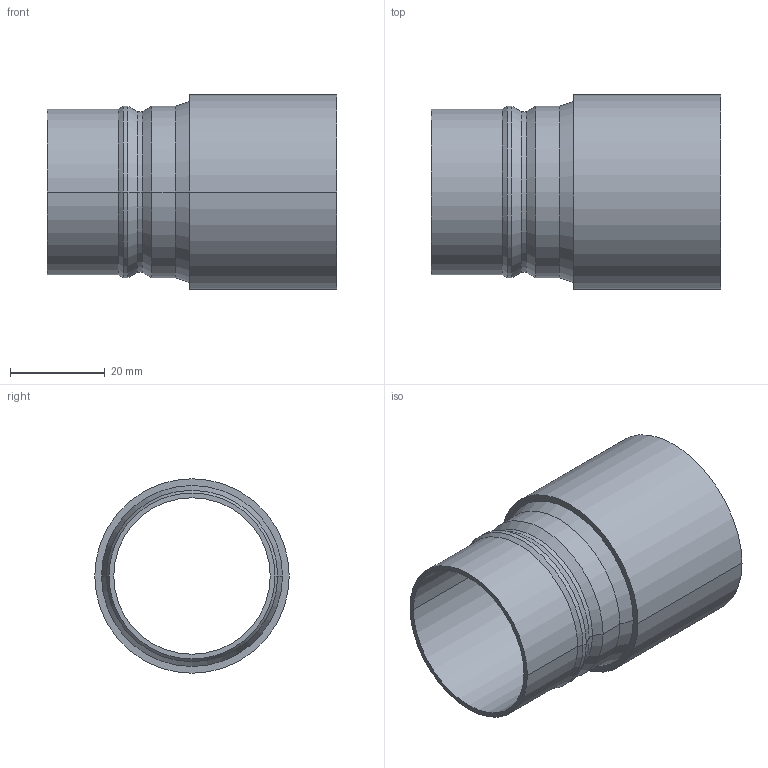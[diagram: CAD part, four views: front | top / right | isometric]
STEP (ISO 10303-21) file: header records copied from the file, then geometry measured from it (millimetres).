
FILE_DESCRIPTION (( 'STEP AP214' ), '1' );
FILE_NAME ('BR606.25 DR 33.STEP', '2020-12-02T14:14:42', ( '' ), ( '' ), 'SwSTEP 2.0', 'SolidWorks 2018', '' );
FILE_SCHEMA (( 'AUTOMOTIVE_DESIGN' ));
Length unit declared in the file: millimetre
Products named in the file (1): BR606.25 DR 33
Bounding box: 61 x 41 x 41 mm (x, y, z)
Volume: 18343.4 mm3; surface area: 14508.9 mm2
Topology: 1 solids, 1 shells, 23 faces, 46 edges, 26 vertices
Faces by surface type: cylinder 12, cone 8, plane 3
Entity records: 632 total; most frequent: DIRECTION 120, CARTESIAN_POINT 96, ORIENTED_EDGE 92, AXIS2_PLACEMENT_3D 50, EDGE_CURVE 46, VERTEX_POINT 26, CIRCLE 26, EDGE_LOOP 26
